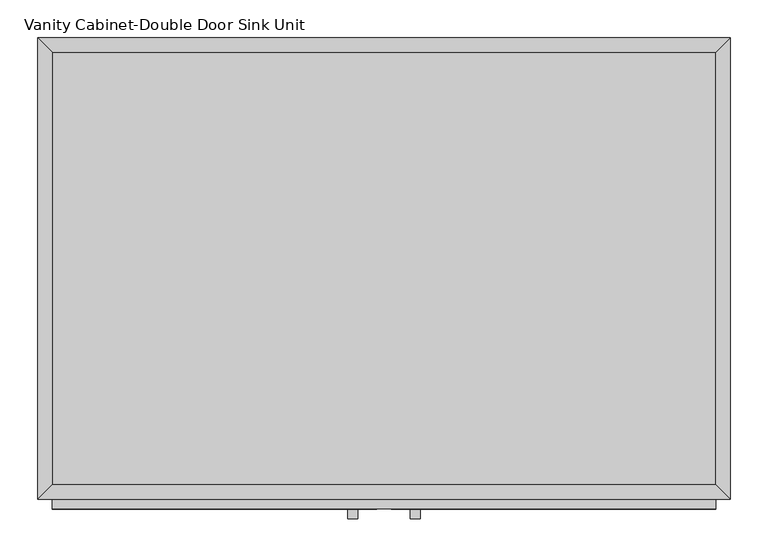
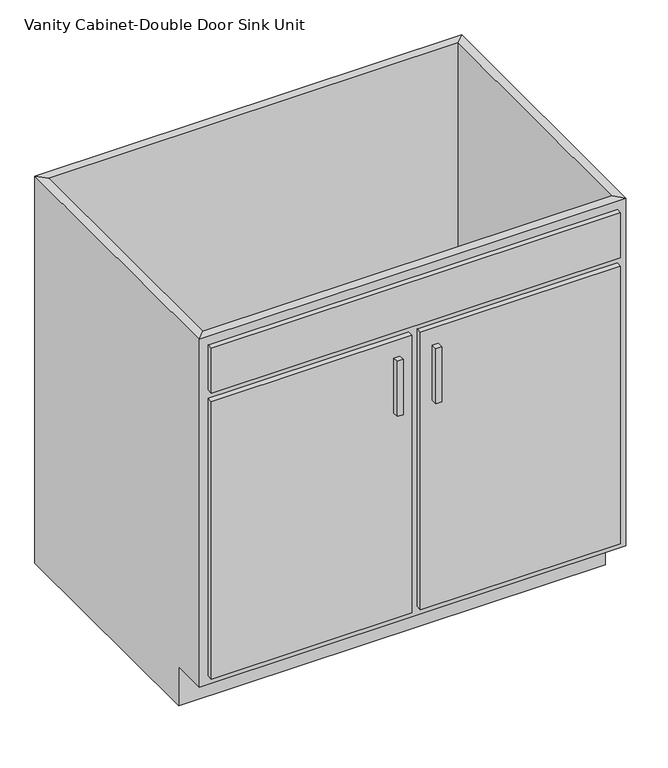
"""IFC4 building model written with IfcOpenShell, lengths in millimetres: furniture geometry, Vanity Cabinet-Double Door Sink Unit : wOOD."""

from ifc_helpers import new_model, si_unit, frame, origin, place, context, project, spatial, polyline, outline, extrude, faceted_brep, source, transform, mapped, element, save


def vanity_cabinet_double_door_sink_unit_dcdcec85(model_context):
    return source(origin(), model_context, "Body", "SolidModel", [
        faceted_brep([(456.8877049, -590.55, 876.3), (456.8877049, -590.55, 88.9), (-419.4122951, -590.55, 88.9), (-419.4122951, -590.55, 876.3), (-438.4622951, -609.6, 876.3), (475.9377049, -609.6, 876.3), (-438.4622951, -609.6, 88.9), (475.9377049, -609.6, 88.9), (-419.4122951, -533.4, 88.9), (-419.4122951, -19.05, 88.9), (-419.4122951, -19.05, 876.3), (-438.4622951, 0.0, 876.3), (-438.4622951, 0.0, 0.0), (-438.4622951, -533.4, 0.0), (-438.4622951, -533.4, 88.9), (456.8877049, -19.05, 88.9), (456.8877049, -19.05, 876.3), (475.9377049, 0.0, 876.3), (475.9377049, 0.0, 0.0), (456.8877049, -533.4, 88.9), (475.9377049, -533.4, 88.9), (475.9377049, -533.4, 0.0)], [[[0, 1, 2, 3]], [[0, 3, 4, 5]], [[5, 4, 6, 7]], [[2, 1, 7, 6]], [[3, 2, 8, 9, 10]], [[4, 3, 10, 11]], [[6, 4, 11, 12, 13, 14]], [[2, 6, 14, 8]], [[10, 9, 15, 16]], [[11, 10, 16, 17]], [[12, 11, 17, 18]], [[1, 0, 16, 15, 19]], [[0, 5, 17, 16]], [[5, 7, 20, 21, 18, 17]], [[7, 1, 19, 20]], [[8, 19, 15, 9]], [[18, 21, 13, 12]], [[13, 21, 20, 19, 8, 14]]]),
        extrude(outline(polyline([(-16.1872951, -635.0), (-28.8872951, -635.0), (-28.8872951, -622.3), (-16.1872951, -622.3), (-16.1872951, -635.0)])), frame((0.0, 0.0, 573.769895), z_axis=(0.0, 0.0, 1.0), x_axis=(1.0, 0.0, 0.0)), (0.0, 0.0, 1.0), 124.730105),
        extrude(outline(polyline([(66.3627049, -635.0), (53.6627049, -635.0), (53.6627049, -622.3), (66.3627049, -622.3), (66.3627049, -635.0)])), frame((0.0, 0.0, 573.769895), z_axis=(0.0, 0.0, 1.0), x_axis=(1.0, 0.0, 0.0)), (0.0, 0.0, 1.0), 124.730105),
        extrude(outline(polyline([(456.8877049, -19.05), (456.8877049, -590.55), (-419.4122951, -590.55), (-419.4122951, -19.05), (456.8877049, -19.05)])), frame((0.0, 0.0, 88.9), z_axis=(0.0, 0.0, 1.0), x_axis=(1.0, 0.0, 0.0)), (0.0, 0.0, 1.0), 19.05),
        extrude(outline(polyline([(9.2127049, -622.3), (-419.4122951, -622.3), (-419.4122951, -609.6), (9.2127049, -609.6), (9.2127049, -622.3)])), frame((0.0, 0.0, 107.95), z_axis=(0.0, 0.0, 1.0), x_axis=(1.0, 0.0, 0.0)), (0.0, 0.0, 1.0), 628.65),
        extrude(outline(polyline([(456.8877049, -622.3), (28.2627049, -622.3), (28.2627049, -609.6), (456.8877049, -609.6), (456.8877049, -622.3)])), frame((0.0, 0.0, 107.95), z_axis=(0.0, 0.0, 1.0), x_axis=(1.0, 0.0, 0.0)), (0.0, 0.0, 1.0), 628.65),
        extrude(outline(polyline([(456.8877049, -622.3), (-419.4122951, -622.3), (-419.4122951, -609.6), (456.8877049, -609.6), (456.8877049, -622.3)])), frame((0.0, 0.0, 755.65), z_axis=(0.0, 0.0, 1.0), x_axis=(1.0, 0.0, 0.0)), (0.0, 0.0, 1.0), 101.6),
    ])


if __name__ == "__main__":
    model = new_model("IFC4")
    model_context = context("Model", 3, world=origin())
    ifc_project = project(units=[si_unit("LENGTHUNIT", "METRE", prefix="MILLI")], contexts=[model_context])
    site = spatial("IfcSite", under=ifc_project)
    building = spatial("IfcBuilding", under=site)
    placement = place(None, origin())
    vanity_cabinet_double_door_sink_unit_shape = vanity_cabinet_double_door_sink_unit_dcdcec85(model_context)
    element("IfcFurniture", 1, ObjectType="Vanity Cabinet-Double Door Sink Unit : wOOD", at=placement, inside=building, context=model_context, shape_type="MappedRepresentation", body=[
        mapped(vanity_cabinet_double_door_sink_unit_shape, transform((0.0, 0.0, 0.0), x_axis=(1.0, 0.0, 0.0), y_axis=(0.0, 1.0, 0.0), z_axis=(0.0, 0.0, 1.0))),
    ])
    save(model, "model.ifc")
